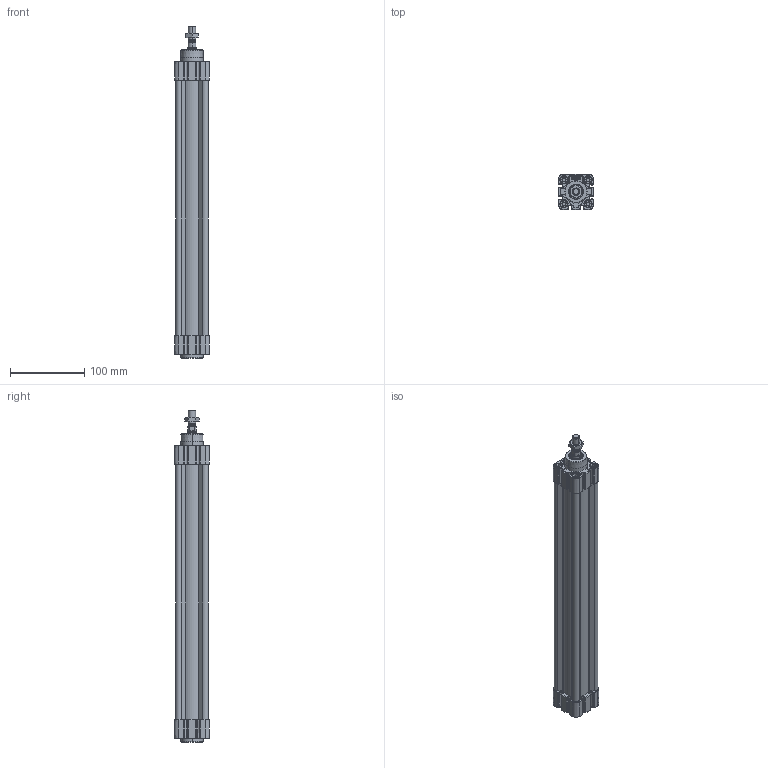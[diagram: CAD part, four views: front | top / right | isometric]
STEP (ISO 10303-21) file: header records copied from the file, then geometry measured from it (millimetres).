
FILE_DESCRIPTION (( 'STEP AP214' ), '1' );
FILE_NAME ('E11M20320300.STEP', '2021-10-25T14:07:19', ( '' ), ( '' ), 'SwSTEP 2.0', 'SolidWorks 2016', '' );
FILE_SCHEMA (( 'AUTOMOTIVE_DESIGN' ));
Length unit declared in the file: millimetre
Products named in the file (7): TP Ø32 ISO 15552 WEB; Pistone Ø32 ISO 15552; E11M20320300; 000.530.7_000.530.0300; 21.A01.0000_21.A01.0300; 21.750.0; TA Ø32 ISO 15552 WEB
Assembly tree (6 placements, depth 2):
  E11M20320300
    TP Ø32 ISO 15552 WEB
    TA Ø32 ISO 15552 WEB
    Pistone Ø32 ISO 15552
    000.530.7_000.530.0300
    21.A01.0000_21.A01.0300
    21.750.0
Bounding box: 47.07 x 47.07 x 447 mm (x, y, z)
Volume: 352623.6 mm3; surface area: 228946.8 mm2
Topology: 18 solids, 18 shells, 1665 faces, 4201 edges, 2657 vertices
Faces by surface type: plane 799, cylinder 516, cone 178, torus 98, bspline 74
Entity records: 66891 total; most frequent: CARTESIAN_POINT 10244, DIRECTION 8723, ORIENTED_EDGE 8402, EDGE_CURVE 4201, AXIS2_PLACEMENT_3D 3124, VERTEX_POINT 2657, VECTOR 2475, LINE 2475
